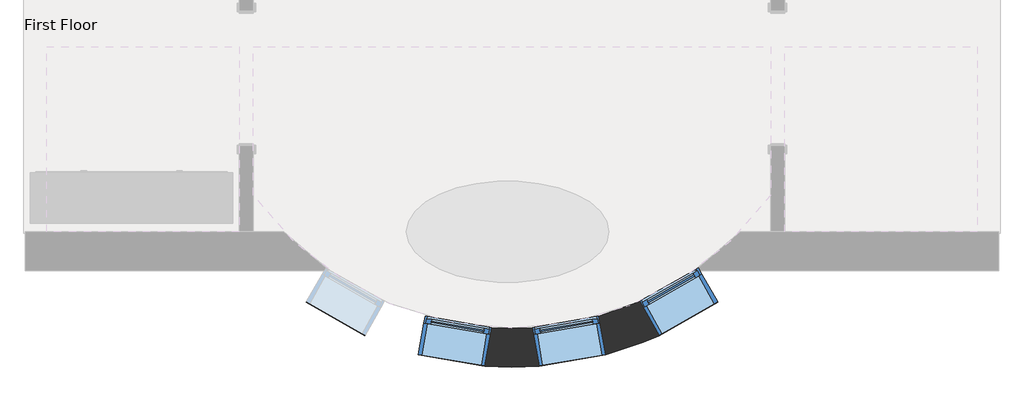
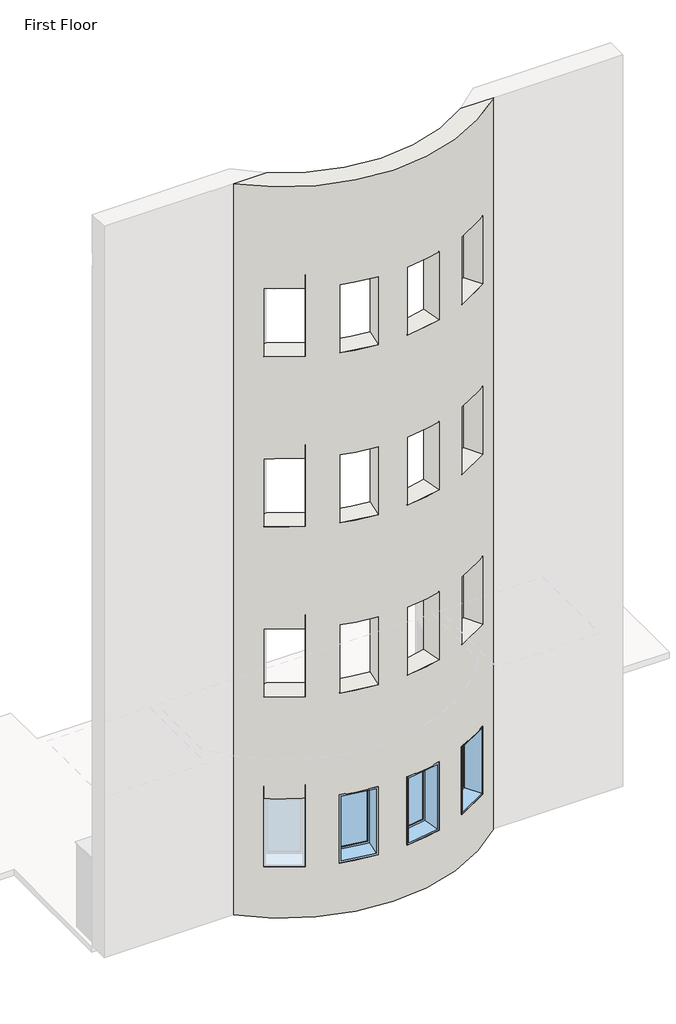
# One storey, part 2 of 3: 3 windows, 1 wall.
"""IFC4 building model written with IfcOpenShell, lengths in millimetres."""

from ifc_helpers import new_model, si_unit, frame, origin, place, context, project, spatial, polyline, circle_curve, transform, mapped, element, save
from ifc_brep_helpers import plane_surface, cylinder_surface, revolved_surface, advanced_brep
from components import window_60baf983, window_ed80354a

model = new_model("IFC4")

# Units and contexts
model_context = context("Model", 3, world=origin())
ifc_project = project(units=[si_unit("LENGTHUNIT", "METRE", prefix="MILLI")], contexts=[model_context])

# Site, building, storey
site = spatial("IfcSite", under=ifc_project)
building = spatial("IfcBuilding", under=site)
storey = spatial("IfcBuildingStorey", under=building, Name="First Floor", Elevation=0.0)

# Wall
placement = place(None, origin())
element("IfcWall", 1, ObjectType="Exterior - Brick on Mtl. Stud", at=placement, inside=storey, context=model_context, shape_type="AdvancedBrep", body=[
    advanced_brep(
    [(3312.4627349, 6294.7882581, 13106.4), (19.4814354, 6294.7882581, 13106.4), (-538.4131488, 6294.7882581, 13106.4), (3870.3573191, 6294.7882581, 13106.4), (19.4814354, 6294.7882581, 0.0), (3312.4627349, 6294.7882581, 0.0), (3870.3573191, 6294.7882581, 0.0), (-538.4131488, 6294.7882581, 0.0), (3312.4627349, 6294.7882581, 12420.6), (19.4814354, 6294.7882581, 12420.6), (19.4814354, 6294.7882581, 914.4), (513.6968458, 6017.2281075, 914.4), (513.6968458, 6017.2281075, 2133.6), (19.4814354, 6294.7882581, 2133.6), (19.4814354, 6294.7882581, 3962.4), (513.6968458, 6017.2281075, 3962.4), (513.6968458, 6017.2281075, 5181.6), (19.4814354, 6294.7882581, 5181.6), (19.4814354, 6294.7882581, 7010.4), (513.6968458, 6017.2281075, 7010.4), (513.6968458, 6017.2281075, 8229.6), (19.4814354, 6294.7882581, 8229.6), (19.4814354, 6294.7882581, 10058.4), (513.6968458, 6017.2281075, 10058.4), (513.6968458, 6017.2281075, 11277.6), (19.4814354, 6294.7882581, 11277.6), (19.4814354, 6294.7882581, 12192.0), (3312.4627349, 6294.7882581, 12192.0), (3312.4627349, 6294.7882581, 11277.6), (2818.2473245, 6017.2281075, 11277.6), (2818.2473245, 6017.2281075, 10058.4), (3312.4627349, 6294.7882581, 10058.4), (3312.4627349, 6294.7882581, 8229.6), (2818.2473245, 6017.2281075, 8229.6), (2818.2473245, 6017.2281075, 7010.4), (3312.4627349, 6294.7882581, 7010.4), (3312.4627349, 6294.7882581, 5181.6), (2818.2473245, 6017.2281075, 5181.6), (2818.2473245, 6017.2281075, 3962.4), (3312.4627349, 6294.7882581, 3962.4), (3312.4627349, 6294.7882581, 2133.6), (2818.2473245, 6017.2281075, 2133.6), (2818.2473245, 6017.2281075, 914.4), (3312.4627349, 6294.7882581, 914.4), (1481.667639, 5781.8408545, 914.4), (1481.667639, 5781.8408545, 2133.6), (880.9128086, 5885.3096604, 2133.6), (880.9128086, 5885.3096604, 914.4), (1850.2765313, 5781.8408545, 2133.6), (1850.2765313, 5781.8408545, 914.4), (2451.0313617, 5885.3096604, 914.4), (2451.0313617, 5885.3096604, 2133.6), (1481.667639, 5781.8408545, 10058.4), (1481.667639, 5781.8408545, 11277.6), (880.9128086, 5885.3096604, 11277.6), (880.9128086, 5885.3096604, 10058.4), (1850.2765313, 5781.8408545, 11277.6), (1850.2765313, 5781.8408545, 10058.4), (2451.0313617, 5885.3096604, 10058.4), (2451.0313617, 5885.3096604, 11277.6), (1481.667639, 5781.8408545, 3962.4), (1481.667639, 5781.8408545, 5181.6), (880.9128086, 5885.3096604, 5181.6), (880.9128086, 5885.3096604, 3962.4), (1850.2765313, 5781.8408545, 5181.6), (1850.2765313, 5781.8408545, 3962.4), (2451.0313617, 5885.3096604, 3962.4), (2451.0313617, 5885.3096604, 5181.6), (1481.667639, 5781.8408545, 7010.4), (1481.667639, 5781.8408545, 8229.6), (880.9128086, 5885.3096604, 8229.6), (880.9128086, 5885.3096604, 7010.4), (1850.2765313, 5781.8408545, 8229.6), (1850.2765313, 5781.8408545, 7010.4), (2451.0313617, 5885.3096604, 7010.4), (2451.0313617, 5885.3096604, 8229.6), (337.9427329, 5709.7012873, 2133.6), (337.9427329, 5709.7012873, 914.4), (-191.320121, 6012.1793715, 914.4), (-191.320121, 6012.1793715, 2133.6), (1421.5473554, 5432.7738053, 2133.6), (1421.5473554, 5432.7738053, 914.4), (820.792525, 5536.2426112, 914.4), (820.792525, 5536.2426112, 2133.6), (2994.0014374, 5709.7012873, 914.4), (2994.0014374, 5709.7012873, 2133.6), (3523.2642913, 6012.1793715, 2133.6), (3523.2642913, 6012.1793715, 914.4), (1910.3968149, 5432.7738053, 914.4), (1910.3968149, 5432.7738053, 2133.6), (2511.1516453, 5536.2426112, 2133.6), (2511.1516453, 5536.2426112, 914.4), (337.9427329, 5709.7012873, 11277.6), (337.9427329, 5709.7012873, 10058.4), (-191.320121, 6012.1793715, 10058.4), (-191.320121, 6012.1793715, 11277.6), (1421.5473554, 5432.7738053, 11277.6), (1421.5473554, 5432.7738053, 10058.4), (820.792525, 5536.2426112, 10058.4), (820.792525, 5536.2426112, 11277.6), (2994.0014374, 5709.7012873, 10058.4), (2994.0014374, 5709.7012873, 11277.6), (3523.2642913, 6012.1793715, 11277.6), (3523.2642913, 6012.1793715, 10058.4), (1910.3968149, 5432.7738053, 10058.4), (1910.3968149, 5432.7738053, 11277.6), (2511.1516453, 5536.2426112, 11277.6), (2511.1516453, 5536.2426112, 10058.4), (337.9427329, 5709.7012873, 5181.6), (337.9427329, 5709.7012873, 3962.4), (-191.320121, 6012.1793715, 3962.4), (-191.320121, 6012.1793715, 5181.6), (1421.5473554, 5432.7738053, 5181.6), (1421.5473554, 5432.7738053, 3962.4), (820.792525, 5536.2426112, 3962.4), (820.792525, 5536.2426112, 5181.6), (2994.0014374, 5709.7012873, 3962.4), (2994.0014374, 5709.7012873, 5181.6), (3523.2642913, 6012.1793715, 5181.6), (3523.2642913, 6012.1793715, 3962.4), (1910.3968149, 5432.7738053, 3962.4), (1910.3968149, 5432.7738053, 5181.6), (2511.1516453, 5536.2426112, 5181.6), (2511.1516453, 5536.2426112, 3962.4), (337.9427329, 5709.7012873, 8229.6), (337.9427329, 5709.7012873, 7010.4), (-191.320121, 6012.1793715, 7010.4), (-191.320121, 6012.1793715, 8229.6), (1421.5473554, 5432.7738053, 8229.6), (1421.5473554, 5432.7738053, 7010.4), (820.792525, 5536.2426112, 7010.4), (820.792525, 5536.2426112, 8229.6), (2994.0014374, 5709.7012873, 7010.4), (2994.0014374, 5709.7012873, 8229.6), (3523.2642913, 6012.1793715, 8229.6), (3523.2642913, 6012.1793715, 7010.4), (1910.3968149, 5432.7738053, 7010.4), (1910.3968149, 5432.7738053, 8229.6), (2511.1516453, 5536.2426112, 8229.6), (2511.1516453, 5536.2426112, 7010.4), (3361.7509829, 6294.7882581, 914.4), (3361.7509829, 6294.7882581, 2133.6), (3361.7509829, 6294.7882581, 3962.4), (3361.7509829, 6294.7882581, 5181.6), (3361.7509829, 6294.7882581, 7010.4), (3361.7509829, 6294.7882581, 8229.6), (3361.7509829, 6294.7882581, 10058.4), (3361.7509829, 6294.7882581, 11277.6), (3620.9496559, 6294.7882581, 12192.0), (3620.9496559, 6294.7882581, 12420.6), (-289.0054857, 6294.7882581, 12420.6), (-289.0054857, 6294.7882581, 12192.0), (-29.8068126, 6294.7882581, 11277.6), (-29.8068126, 6294.7882581, 10058.4), (-29.8068126, 6294.7882581, 8229.6), (-29.8068126, 6294.7882581, 7010.4), (-29.8068126, 6294.7882581, 5181.6), (-29.8068126, 6294.7882581, 3962.4), (-29.8068126, 6294.7882581, 2133.6), (-29.8068126, 6294.7882581, 914.4)],
    [
        (0, 1, circle_curve(frame((1665.9720851, 8647.7081431, 13106.4), z_axis=(0.0, 0.0, -1.0), x_axis=(1.0, 0.0, 0.0)), 2871.7875)),
        (1, 2),
        (2, 3, circle_curve(frame((1665.9720851, 8647.7081431, 13106.4), z_axis=(0.0, 0.0, 1.0), x_axis=(1.0, 0.0, 0.0)), 3224.2125)),
        (3, 0),
        (4, 5, circle_curve(frame((1665.9720851, 8647.7081431, 0.0), z_axis=(0.0, 0.0, 1.0), x_axis=(1.0, 0.0, 0.0)), 2871.7875)),
        (5, 6),
        (6, 7, circle_curve(frame((1665.9720851, 8647.7081431, 0.0), z_axis=(0.0, 0.0, -1.0), x_axis=(1.0, 0.0, 0.0)), 3224.2125)),
        (7, 4),
        (0, 8),
        (8, 9, circle_curve(frame((1665.9720851, 8647.7081431, 12420.6), z_axis=(0.0, 0.0, -1.0), x_axis=(1.0, 0.0, 0.0)), 2871.7875)),
        (9, 1),
        (4, 10),
        (10, 11, circle_curve(frame((1665.9720851, 8647.7081431, 914.4), z_axis=(0.0, 0.0, 1.0), x_axis=(1.0, 0.0, 0.0)), 2871.7875)),
        (11, 12),
        (12, 13, circle_curve(frame((1665.9720851, 8647.7081431, 2133.6), z_axis=(0.0, 0.0, -1.0), x_axis=(1.0, 0.0, 0.0)), 2871.7875)),
        (13, 14),
        (14, 15, circle_curve(frame((1665.9720851, 8647.7081431, 3962.4), z_axis=(0.0, 0.0, 1.0), x_axis=(1.0, 0.0, 0.0)), 2871.7875)),
        (15, 16),
        (16, 17, circle_curve(frame((1665.9720851, 8647.7081431, 5181.6), z_axis=(0.0, 0.0, -1.0), x_axis=(1.0, 0.0, 0.0)), 2871.7875)),
        (17, 18),
        (18, 19, circle_curve(frame((1665.9720851, 8647.7081431, 7010.4), z_axis=(0.0, 0.0, 1.0), x_axis=(1.0, 0.0, 0.0)), 2871.7875)),
        (19, 20),
        (20, 21, circle_curve(frame((1665.9720851, 8647.7081431, 8229.6), z_axis=(0.0, 0.0, -1.0), x_axis=(1.0, 0.0, 0.0)), 2871.7875)),
        (21, 22),
        (22, 23, circle_curve(frame((1665.9720851, 8647.7081431, 10058.4), z_axis=(0.0, 0.0, 1.0), x_axis=(1.0, 0.0, 0.0)), 2871.7875)),
        (23, 24),
        (24, 25, circle_curve(frame((1665.9720851, 8647.7081431, 11277.6), z_axis=(0.0, 0.0, -1.0), x_axis=(1.0, 0.0, 0.0)), 2871.7875)),
        (25, 26),
        (26, 27, circle_curve(frame((1665.9720851, 8647.7081431, 12192.0), z_axis=(0.0, 0.0, 1.0), x_axis=(1.0, 0.0, 0.0)), 2871.7875)),
        (27, 28),
        (28, 29, circle_curve(frame((1665.9720851, 8647.7081431, 11277.6), z_axis=(0.0, 0.0, -1.0), x_axis=(1.0, 0.0, 0.0)), 2871.7875)),
        (29, 30),
        (30, 31, circle_curve(frame((1665.9720851, 8647.7081431, 10058.4), z_axis=(0.0, 0.0, 1.0), x_axis=(1.0, 0.0, 0.0)), 2871.7875)),
        (31, 32),
        (32, 33, circle_curve(frame((1665.9720851, 8647.7081431, 8229.6), z_axis=(0.0, 0.0, -1.0), x_axis=(1.0, 0.0, 0.0)), 2871.7875)),
        (33, 34),
        (34, 35, circle_curve(frame((1665.9720851, 8647.7081431, 7010.4), z_axis=(0.0, 0.0, 1.0), x_axis=(1.0, 0.0, 0.0)), 2871.7875)),
        (35, 36),
        (36, 37, circle_curve(frame((1665.9720851, 8647.7081431, 5181.6), z_axis=(0.0, 0.0, -1.0), x_axis=(1.0, 0.0, 0.0)), 2871.7875)),
        (37, 38),
        (38, 39, circle_curve(frame((1665.9720851, 8647.7081431, 3962.4), z_axis=(0.0, 0.0, 1.0), x_axis=(1.0, 0.0, 0.0)), 2871.7875)),
        (39, 40),
        (40, 41, circle_curve(frame((1665.9720851, 8647.7081431, 2133.6), z_axis=(0.0, 0.0, -1.0), x_axis=(1.0, 0.0, 0.0)), 2871.7875)),
        (41, 42),
        (42, 43, circle_curve(frame((1665.9720851, 8647.7081431, 914.4), z_axis=(0.0, 0.0, 1.0), x_axis=(1.0, 0.0, 0.0)), 2871.7875)),
        (43, 5),
        (44, 45),
        (45, 46, circle_curve(frame((1665.9720851, 8647.7081431, 2133.6), z_axis=(0.0, 0.0, -1.0), x_axis=(1.0, 0.0, 0.0)), 2871.7875)),
        (46, 47),
        (47, 44, circle_curve(frame((1665.9720851, 8647.7081431, 914.4), z_axis=(0.0, 0.0, 1.0), x_axis=(1.0, 0.0, 0.0)), 2871.7875)),
        (48, 49),
        (49, 50, circle_curve(frame((1665.9720851, 8647.7081431, 914.4), z_axis=(0.0, 0.0, 1.0), x_axis=(1.0, 0.0, 0.0)), 2871.7875)),
        (50, 51),
        (51, 48, circle_curve(frame((1665.9720851, 8647.7081431, 2133.6), z_axis=(0.0, 0.0, -1.0), x_axis=(1.0, 0.0, 0.0)), 2871.7875)),
        (52, 53),
        (53, 54, circle_curve(frame((1665.9720851, 8647.7081431, 11277.6), z_axis=(0.0, 0.0, -1.0), x_axis=(1.0, 0.0, 0.0)), 2871.7875)),
        (54, 55),
        (55, 52, circle_curve(frame((1665.9720851, 8647.7081431, 10058.4), z_axis=(0.0, 0.0, 1.0), x_axis=(1.0, 0.0, 0.0)), 2871.7875)),
        (56, 57),
        (57, 58, circle_curve(frame((1665.9720851, 8647.7081431, 10058.4), z_axis=(0.0, 0.0, 1.0), x_axis=(1.0, 0.0, 0.0)), 2871.7875)),
        (58, 59),
        (59, 56, circle_curve(frame((1665.9720851, 8647.7081431, 11277.6), z_axis=(0.0, 0.0, -1.0), x_axis=(1.0, 0.0, 0.0)), 2871.7875)),
        (60, 61),
        (61, 62, circle_curve(frame((1665.9720851, 8647.7081431, 5181.6), z_axis=(0.0, 0.0, -1.0), x_axis=(1.0, 0.0, 0.0)), 2871.7875)),
        (62, 63),
        (63, 60, circle_curve(frame((1665.9720851, 8647.7081431, 3962.4), z_axis=(0.0, 0.0, 1.0), x_axis=(1.0, 0.0, 0.0)), 2871.7875)),
        (64, 65),
        (65, 66, circle_curve(frame((1665.9720851, 8647.7081431, 3962.4), z_axis=(0.0, 0.0, 1.0), x_axis=(1.0, 0.0, 0.0)), 2871.7875)),
        (66, 67),
        (67, 64, circle_curve(frame((1665.9720851, 8647.7081431, 5181.6), z_axis=(0.0, 0.0, -1.0), x_axis=(1.0, 0.0, 0.0)), 2871.7875)),
        (68, 69),
        (69, 70, circle_curve(frame((1665.9720851, 8647.7081431, 8229.6), z_axis=(0.0, 0.0, -1.0), x_axis=(1.0, 0.0, 0.0)), 2871.7875)),
        (70, 71),
        (71, 68, circle_curve(frame((1665.9720851, 8647.7081431, 7010.4), z_axis=(0.0, 0.0, 1.0), x_axis=(1.0, 0.0, 0.0)), 2871.7875)),
        (72, 73),
        (73, 74, circle_curve(frame((1665.9720851, 8647.7081431, 7010.4), z_axis=(0.0, 0.0, 1.0), x_axis=(1.0, 0.0, 0.0)), 2871.7875)),
        (74, 75),
        (75, 72, circle_curve(frame((1665.9720851, 8647.7081431, 8229.6), z_axis=(0.0, 0.0, -1.0), x_axis=(1.0, 0.0, 0.0)), 2871.7875)),
        (2, 7),
        (6, 3),
        (76, 77),
        (77, 78, circle_curve(frame((1665.9720851, 8647.7081431, 914.4), z_axis=(0.0, 0.0, -1.0), x_axis=(1.0, 0.0, 0.0)), 3224.2125)),
        (78, 79),
        (79, 76, circle_curve(frame((1665.9720851, 8647.7081431, 2133.6), z_axis=(0.0, 0.0, 1.0), x_axis=(1.0, 0.0, 0.0)), 3224.2125)),
        (80, 81),
        (81, 82, circle_curve(frame((1665.9720851, 8647.7081431, 914.4), z_axis=(0.0, 0.0, -1.0), x_axis=(1.0, 0.0, 0.0)), 3224.2125)),
        (82, 83),
        (83, 80, circle_curve(frame((1665.9720851, 8647.7081431, 2133.6), z_axis=(0.0, 0.0, 1.0), x_axis=(1.0, 0.0, 0.0)), 3224.2125)),
        (84, 85),
        (85, 86, circle_curve(frame((1665.9720851, 8647.7081431, 2133.6), z_axis=(0.0, 0.0, 1.0), x_axis=(1.0, 0.0, 0.0)), 3224.2125)),
        (86, 87),
        (87, 84, circle_curve(frame((1665.9720851, 8647.7081431, 914.4), z_axis=(0.0, 0.0, -1.0), x_axis=(1.0, 0.0, 0.0)), 3224.2125)),
        (88, 89),
        (89, 90, circle_curve(frame((1665.9720851, 8647.7081431, 2133.6), z_axis=(0.0, 0.0, 1.0), x_axis=(1.0, 0.0, 0.0)), 3224.2125)),
        (90, 91),
        (91, 88, circle_curve(frame((1665.9720851, 8647.7081431, 914.4), z_axis=(0.0, 0.0, -1.0), x_axis=(1.0, 0.0, 0.0)), 3224.2125)),
        (92, 93),
        (93, 94, circle_curve(frame((1665.9720851, 8647.7081431, 10058.4), z_axis=(0.0, 0.0, -1.0), x_axis=(1.0, 0.0, 0.0)), 3224.2125)),
        (94, 95),
        (95, 92, circle_curve(frame((1665.9720851, 8647.7081431, 11277.6), z_axis=(0.0, 0.0, 1.0), x_axis=(1.0, 0.0, 0.0)), 3224.2125)),
        (96, 97),
        (97, 98, circle_curve(frame((1665.9720851, 8647.7081431, 10058.4), z_axis=(0.0, 0.0, -1.0), x_axis=(1.0, 0.0, 0.0)), 3224.2125)),
        (98, 99),
        (99, 96, circle_curve(frame((1665.9720851, 8647.7081431, 11277.6), z_axis=(0.0, 0.0, 1.0), x_axis=(1.0, 0.0, 0.0)), 3224.2125)),
        (100, 101),
        (101, 102, circle_curve(frame((1665.9720851, 8647.7081431, 11277.6), z_axis=(0.0, 0.0, 1.0), x_axis=(1.0, 0.0, 0.0)), 3224.2125)),
        (102, 103),
        (103, 100, circle_curve(frame((1665.9720851, 8647.7081431, 10058.4), z_axis=(0.0, 0.0, -1.0), x_axis=(1.0, 0.0, 0.0)), 3224.2125)),
        (104, 105),
        (105, 106, circle_curve(frame((1665.9720851, 8647.7081431, 11277.6), z_axis=(0.0, 0.0, 1.0), x_axis=(1.0, 0.0, 0.0)), 3224.2125)),
        (106, 107),
        (107, 104, circle_curve(frame((1665.9720851, 8647.7081431, 10058.4), z_axis=(0.0, 0.0, -1.0), x_axis=(1.0, 0.0, 0.0)), 3224.2125)),
        (108, 109),
        (109, 110, circle_curve(frame((1665.9720851, 8647.7081431, 3962.4), z_axis=(0.0, 0.0, -1.0), x_axis=(1.0, 0.0, 0.0)), 3224.2125)),
        (110, 111),
        (111, 108, circle_curve(frame((1665.9720851, 8647.7081431, 5181.6), z_axis=(0.0, 0.0, 1.0), x_axis=(1.0, 0.0, 0.0)), 3224.2125)),
        (112, 113),
        (113, 114, circle_curve(frame((1665.9720851, 8647.7081431, 3962.4), z_axis=(0.0, 0.0, -1.0), x_axis=(1.0, 0.0, 0.0)), 3224.2125)),
        (114, 115),
        (115, 112, circle_curve(frame((1665.9720851, 8647.7081431, 5181.6), z_axis=(0.0, 0.0, 1.0), x_axis=(1.0, 0.0, 0.0)), 3224.2125)),
        (116, 117),
        (117, 118, circle_curve(frame((1665.9720851, 8647.7081431, 5181.6), z_axis=(0.0, 0.0, 1.0), x_axis=(1.0, 0.0, 0.0)), 3224.2125)),
        (118, 119),
        (119, 116, circle_curve(frame((1665.9720851, 8647.7081431, 3962.4), z_axis=(0.0, 0.0, -1.0), x_axis=(1.0, 0.0, 0.0)), 3224.2125)),
        (120, 121),
        (121, 122, circle_curve(frame((1665.9720851, 8647.7081431, 5181.6), z_axis=(0.0, 0.0, 1.0), x_axis=(1.0, 0.0, 0.0)), 3224.2125)),
        (122, 123),
        (123, 120, circle_curve(frame((1665.9720851, 8647.7081431, 3962.4), z_axis=(0.0, 0.0, -1.0), x_axis=(1.0, 0.0, 0.0)), 3224.2125)),
        (124, 125),
        (125, 126, circle_curve(frame((1665.9720851, 8647.7081431, 7010.4), z_axis=(0.0, 0.0, -1.0), x_axis=(1.0, 0.0, 0.0)), 3224.2125)),
        (126, 127),
        (127, 124, circle_curve(frame((1665.9720851, 8647.7081431, 8229.6), z_axis=(0.0, 0.0, 1.0), x_axis=(1.0, 0.0, 0.0)), 3224.2125)),
        (128, 129),
        (129, 130, circle_curve(frame((1665.9720851, 8647.7081431, 7010.4), z_axis=(0.0, 0.0, -1.0), x_axis=(1.0, 0.0, 0.0)), 3224.2125)),
        (130, 131),
        (131, 128, circle_curve(frame((1665.9720851, 8647.7081431, 8229.6), z_axis=(0.0, 0.0, 1.0), x_axis=(1.0, 0.0, 0.0)), 3224.2125)),
        (132, 133),
        (133, 134, circle_curve(frame((1665.9720851, 8647.7081431, 8229.6), z_axis=(0.0, 0.0, 1.0), x_axis=(1.0, 0.0, 0.0)), 3224.2125)),
        (134, 135),
        (135, 132, circle_curve(frame((1665.9720851, 8647.7081431, 7010.4), z_axis=(0.0, 0.0, -1.0), x_axis=(1.0, 0.0, 0.0)), 3224.2125)),
        (136, 137),
        (137, 138, circle_curve(frame((1665.9720851, 8647.7081431, 8229.6), z_axis=(0.0, 0.0, 1.0), x_axis=(1.0, 0.0, 0.0)), 3224.2125)),
        (138, 139),
        (139, 136, circle_curve(frame((1665.9720851, 8647.7081431, 7010.4), z_axis=(0.0, 0.0, -1.0), x_axis=(1.0, 0.0, 0.0)), 3224.2125)),
        (43, 140),
        (140, 141),
        (141, 40),
        (39, 142),
        (142, 143),
        (143, 36),
        (35, 144),
        (144, 145),
        (145, 32),
        (31, 146),
        (146, 147),
        (147, 28),
        (27, 148),
        (148, 149),
        (149, 8),
        (9, 150),
        (150, 151),
        (151, 26),
        (25, 152),
        (152, 153),
        (153, 22),
        (21, 154),
        (154, 155),
        (155, 18),
        (17, 156),
        (156, 157),
        (157, 14),
        (13, 158),
        (158, 159),
        (159, 10),
        (76, 12),
        (11, 77),
        (159, 78),
        (158, 79),
        (80, 45),
        (44, 81),
        (47, 82),
        (46, 83),
        (41, 85),
        (84, 42),
        (87, 140),
        (86, 141),
        (48, 89),
        (88, 49),
        (91, 50),
        (90, 51),
        (92, 24),
        (23, 93),
        (153, 94),
        (152, 95),
        (96, 53),
        (52, 97),
        (55, 98),
        (54, 99),
        (29, 101),
        (100, 30),
        (103, 146),
        (102, 147),
        (56, 105),
        (104, 57),
        (107, 58),
        (106, 59),
        (108, 16),
        (15, 109),
        (157, 110),
        (156, 111),
        (112, 61),
        (60, 113),
        (63, 114),
        (62, 115),
        (37, 117),
        (116, 38),
        (119, 142),
        (118, 143),
        (64, 121),
        (120, 65),
        (123, 66),
        (122, 67),
        (124, 20),
        (19, 125),
        (155, 126),
        (154, 127),
        (128, 69),
        (68, 129),
        (71, 130),
        (70, 131),
        (33, 133),
        (132, 34),
        (135, 144),
        (134, 145),
        (72, 137),
        (136, 73),
        (139, 74),
        (138, 75),
        (151, 148, circle_curve(frame((1665.9720851, 8647.7081431, 12192.0), z_axis=(0.0, 0.0, 1.0), x_axis=(1.0, 0.0, 0.0)), 3059.1125)),
        (149, 150, circle_curve(frame((1665.9720851, 8647.7081431, 12420.6), z_axis=(0.0, 0.0, -1.0), x_axis=(1.0, 0.0, 0.0)), 3059.1125)),
    ],
    [
        plane_surface(frame((4537.7595851, 8647.7081431, 13106.4), z_axis=(0.0, 0.0, 1.0), x_axis=(0.0, -1.0, 0.0))),
        plane_surface(frame((4537.7595851, 8647.7081431, 0.0), z_axis=(0.0, 0.0, -1.0), x_axis=(0.0, 1.0, 0.0))),
        revolved_surface(polyline([(4537.7595851, 8647.7081431, 12420.6), (4537.7595851, 8647.7081431, 13106.4)]), (1665.9720851, 8647.7081431, 0.0), (0.0, 0.0, -1.0)),
        revolved_surface(polyline([(4537.7595851, 8647.7081431, 0.0), (4537.7595851, 8647.7081431, 12192.0)]), (1665.9720851, 8647.7081431, 0.0), (0.0, 0.0, -1.0)),
        cylinder_surface(frame((1665.9720851, 8647.7081431, 0.0), z_axis=(0.0, 0.0, 1.0), x_axis=(1.0, 0.0, 0.0)), 3224.2125),
        plane_surface(frame((6237.9720851, 6294.7882581, 0.0), z_axis=(0.0, 1.0, 0.0), x_axis=(1.0, 0.0, 0.0))),
        plane_surface(frame((-2906.0279149, 6294.7882581, 0.0), z_axis=(0.0, 1.0, 0.0), x_axis=(1.0, 0.0, 0.0))),
        plane_surface(frame((1095.0219139, 7034.4051549, 2133.6), z_axis=(-0.8682133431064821, 0.49619108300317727, 0.0), x_axis=(-0.49619108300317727, -0.8682133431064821, 0.0))),
        plane_surface(frame((1095.0219139, 7034.4051549, 914.4), z_axis=(0.0, 0.0, 1.0), x_axis=(-0.4961910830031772, -0.8682133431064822, 0.0))),
        plane_surface(frame((565.7590599, 7336.8832391, 914.4), z_axis=(0.8682133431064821, -0.4961910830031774, 0.0), x_axis=(-0.4961910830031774, -0.8682133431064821, 0.0))),
        plane_surface(frame((565.7590599, 7336.8832391, 2133.6), z_axis=(0.0, 0.0, -1.0), x_axis=(-0.4961910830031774, -0.8682133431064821, 0.0))),
        plane_surface(frame((1421.5473554, 5432.7738053, 2133.6), z_axis=(-0.9854902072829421, 0.16973229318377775, 0.0), x_axis=(0.16973229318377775, 0.9854902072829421, 0.0))),
        plane_surface(frame((1421.5473554, 5432.7738053, 914.4), z_axis=(0.0, 0.0, 1.0), x_axis=(0.16973229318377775, 0.9854902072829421, 0.0))),
        plane_surface(frame((820.792525, 5536.2426112, 914.4), z_axis=(0.9854902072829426, -0.16973229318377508, 0.0), x_axis=(0.16973229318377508, 0.9854902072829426, 0.0))),
        plane_surface(frame((820.792525, 5536.2426112, 2133.6), z_axis=(0.0, 0.0, -1.0), x_axis=(0.16973229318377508, 0.9854902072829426, 0.0))),
        plane_surface(frame((3749.3126774, 4388.0908851, 2133.6), z_axis=(0.8682133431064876, 0.4961910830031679, 0.0), x_axis=(-0.4961910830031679, 0.8682133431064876, 0.0))),
        plane_surface(frame((3749.3126774, 4388.0908851, 914.4), z_axis=(0.0, 0.0, 1.0000000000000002), x_axis=(-0.4961910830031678, 0.8682133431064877, 0.0))),
        plane_surface(frame((4278.5755314, 4690.5689693, 914.4), z_axis=(-0.8682133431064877, -0.4961910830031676, 0.0), x_axis=(-0.4961910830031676, 0.8682133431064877, 0.0))),
        plane_surface(frame((4278.5755314, 4690.5689693, 2133.6), z_axis=(0.0, 0.0, -1.0), x_axis=(-0.4961910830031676, 0.8682133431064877, 0.0))),
        plane_surface(frame((1850.2765313, 5781.8408545, 2133.6), z_axis=(0.9854902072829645, 0.1697322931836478, 0.0), x_axis=(0.1697322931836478, -0.9854902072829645, 0.0))),
        plane_surface(frame((1850.2765313, 5781.8408545, 914.4), z_axis=(0.0, 0.0, 1.0000000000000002), x_axis=(0.1697322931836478, -0.9854902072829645, 0.0))),
        plane_surface(frame((2451.0313617, 5885.3096604, 914.4), z_axis=(-0.9854902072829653, -0.16973229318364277, 0.0), x_axis=(0.16973229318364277, -0.9854902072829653, 0.0))),
        plane_surface(frame((2451.0313617, 5885.3096604, 2133.6), z_axis=(0.0, 0.0, -1.0), x_axis=(0.16973229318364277, -0.9854902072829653, 0.0))),
        plane_surface(frame((1095.0219139, 7034.4051549, 11277.6), z_axis=(-0.8682133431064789, 0.4961910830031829, 0.0), x_axis=(-0.4961910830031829, -0.8682133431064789, 0.0))),
        plane_surface(frame((1095.0219139, 7034.4051549, 10058.4), z_axis=(0.0, 0.0, 1.0), x_axis=(-0.4961910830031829, -0.8682133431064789, 0.0))),
        plane_surface(frame((565.7590599, 7336.8832391, 10058.4), z_axis=(0.8682133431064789, -0.4961910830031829, 0.0), x_axis=(-0.4961910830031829, -0.8682133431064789, 0.0))),
        plane_surface(frame((565.7590599, 7336.8832391, 11277.6), z_axis=(0.0, 0.0, -1.0), x_axis=(-0.4961910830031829, -0.8682133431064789, 0.0))),
        plane_surface(frame((1421.5473554, 5432.7738053, 11277.6), z_axis=(-0.9854902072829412, 0.1697322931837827, 0.0), x_axis=(0.1697322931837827, 0.9854902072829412, 0.0))),
        plane_surface(frame((1421.5473554, 5432.7738053, 10058.4), z_axis=(0.0, 0.0, 1.0000000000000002), x_axis=(0.1697322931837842, 0.985490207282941, 0.0))),
        plane_surface(frame((820.792525, 5536.2426112, 10058.4), z_axis=(0.9854902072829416, -0.16973229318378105, 0.0), x_axis=(0.16973229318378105, 0.9854902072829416, 0.0))),
        plane_surface(frame((820.792525, 5536.2426112, 11277.6), z_axis=(0.0, 0.0, -1.0), x_axis=(0.16973229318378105, 0.9854902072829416, 0.0))),
        plane_surface(frame((3749.3126774, 4388.0908851, 11277.6), z_axis=(0.8682133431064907, 0.4961910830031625, 0.0), x_axis=(-0.4961910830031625, 0.8682133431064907, 0.0))),
        plane_surface(frame((3749.3126774, 4388.0908851, 10058.4), z_axis=(0.0, 0.0, 1.0000000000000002), x_axis=(-0.4961910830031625, 0.8682133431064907, 0.0))),
        plane_surface(frame((4278.5755314, 4690.5689693, 10058.4), z_axis=(-0.8682133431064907, -0.4961910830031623, 0.0), x_axis=(-0.4961910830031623, 0.8682133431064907, 0.0))),
        plane_surface(frame((4278.5755314, 4690.5689693, 11277.6), z_axis=(0.0, 0.0, -1.0), x_axis=(-0.4961910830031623, 0.8682133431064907, 0.0))),
        plane_surface(frame((1850.2765313, 5781.8408545, 11277.6), z_axis=(0.9854902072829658, 0.1697322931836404, 0.0), x_axis=(0.1697322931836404, -0.9854902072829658, 0.0))),
        plane_surface(frame((1850.2765313, 5781.8408545, 10058.4), z_axis=(0.0, 0.0, 1.0000000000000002), x_axis=(0.16973229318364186, -0.9854902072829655, 0.0))),
        plane_surface(frame((2451.0313617, 5885.3096604, 10058.4), z_axis=(-0.9854902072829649, -0.16973229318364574, 0.0), x_axis=(0.16973229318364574, -0.9854902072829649, 0.0))),
        plane_surface(frame((2451.0313617, 5885.3096604, 11277.6), z_axis=(0.0, 0.0, -1.0000000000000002), x_axis=(0.16973229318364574, -0.9854902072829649, 0.0))),
        plane_surface(frame((1095.0219139, 7034.4051549, 5181.6), z_axis=(-0.8682133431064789, 0.4961910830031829, 0.0), x_axis=(-0.4961910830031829, -0.8682133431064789, 0.0))),
        plane_surface(frame((1095.0219139, 7034.4051549, 3962.4), z_axis=(0.0, 0.0, 1.0), x_axis=(-0.4961910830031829, -0.8682133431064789, 0.0))),
        plane_surface(frame((565.7590599, 7336.8832391, 3962.4), z_axis=(0.8682133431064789, -0.4961910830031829, 0.0), x_axis=(-0.4961910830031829, -0.8682133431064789, 0.0))),
        plane_surface(frame((565.7590599, 7336.8832391, 5181.6), z_axis=(0.0, 0.0, -1.0), x_axis=(-0.4961910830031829, -0.8682133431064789, 0.0))),
        plane_surface(frame((1421.5473554, 5432.7738053, 5181.6), z_axis=(-0.9854902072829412, 0.1697322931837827, 0.0), x_axis=(0.1697322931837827, 0.9854902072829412, 0.0))),
        plane_surface(frame((1421.5473554, 5432.7738053, 3962.4), z_axis=(0.0, 0.0, 1.0000000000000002), x_axis=(0.1697322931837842, 0.985490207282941, 0.0))),
        plane_surface(frame((820.792525, 5536.2426112, 3962.4), z_axis=(0.9854902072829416, -0.16973229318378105, 0.0), x_axis=(0.16973229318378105, 0.9854902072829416, 0.0))),
        plane_surface(frame((820.792525, 5536.2426112, 5181.6), z_axis=(0.0, 0.0, -1.0), x_axis=(0.16973229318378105, 0.9854902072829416, 0.0))),
        plane_surface(frame((3749.3126774, 4388.0908851, 5181.6), z_axis=(0.8682133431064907, 0.4961910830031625, 0.0), x_axis=(-0.4961910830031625, 0.8682133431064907, 0.0))),
        plane_surface(frame((3749.3126774, 4388.0908851, 3962.4), z_axis=(0.0, 0.0, 1.0000000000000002), x_axis=(-0.4961910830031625, 0.8682133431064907, 0.0))),
        plane_surface(frame((4278.5755314, 4690.5689693, 3962.4), z_axis=(-0.8682133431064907, -0.4961910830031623, 0.0), x_axis=(-0.4961910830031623, 0.8682133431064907, 0.0))),
        plane_surface(frame((4278.5755314, 4690.5689693, 5181.6), z_axis=(0.0, 0.0, -1.0), x_axis=(-0.4961910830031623, 0.8682133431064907, 0.0))),
        plane_surface(frame((1850.2765313, 5781.8408545, 5181.6), z_axis=(0.9854902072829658, 0.1697322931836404, 0.0), x_axis=(0.1697322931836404, -0.9854902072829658, 0.0))),
        plane_surface(frame((1850.2765313, 5781.8408545, 3962.4), z_axis=(0.0, 0.0, 1.0000000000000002), x_axis=(0.16973229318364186, -0.9854902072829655, 0.0))),
        plane_surface(frame((2451.0313617, 5885.3096604, 3962.4), z_axis=(-0.9854902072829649, -0.16973229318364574, 0.0), x_axis=(0.16973229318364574, -0.9854902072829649, 0.0))),
        plane_surface(frame((2451.0313617, 5885.3096604, 5181.6), z_axis=(0.0, 0.0, -1.0000000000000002), x_axis=(0.16973229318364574, -0.9854902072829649, 0.0))),
        plane_surface(frame((1095.0219139, 7034.4051549, 8229.6), z_axis=(-0.8682133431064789, 0.4961910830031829, 0.0), x_axis=(-0.4961910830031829, -0.8682133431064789, 0.0))),
        plane_surface(frame((1095.0219139, 7034.4051549, 7010.4), z_axis=(0.0, 0.0, 1.0), x_axis=(-0.4961910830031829, -0.8682133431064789, 0.0))),
        plane_surface(frame((565.7590599, 7336.8832391, 7010.4), z_axis=(0.8682133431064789, -0.4961910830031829, 0.0), x_axis=(-0.4961910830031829, -0.8682133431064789, 0.0))),
        plane_surface(frame((565.7590599, 7336.8832391, 8229.6), z_axis=(0.0, 0.0, -1.0), x_axis=(-0.4961910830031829, -0.8682133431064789, 0.0))),
        plane_surface(frame((1421.5473554, 5432.7738053, 8229.6), z_axis=(-0.9854902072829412, 0.1697322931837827, 0.0), x_axis=(0.1697322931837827, 0.9854902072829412, 0.0))),
        plane_surface(frame((1421.5473554, 5432.7738053, 7010.4), z_axis=(0.0, 0.0, 1.0000000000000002), x_axis=(0.1697322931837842, 0.985490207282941, 0.0))),
        plane_surface(frame((820.792525, 5536.2426112, 7010.4), z_axis=(0.9854902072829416, -0.16973229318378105, 0.0), x_axis=(0.16973229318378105, 0.9854902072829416, 0.0))),
        plane_surface(frame((820.792525, 5536.2426112, 8229.6), z_axis=(0.0, 0.0, -1.0), x_axis=(0.16973229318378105, 0.9854902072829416, 0.0))),
        plane_surface(frame((3749.3126774, 4388.0908851, 8229.6), z_axis=(0.8682133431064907, 0.4961910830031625, 0.0), x_axis=(-0.4961910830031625, 0.8682133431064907, 0.0))),
        plane_surface(frame((3749.3126774, 4388.0908851, 7010.4), z_axis=(0.0, 0.0, 1.0000000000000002), x_axis=(-0.4961910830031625, 0.8682133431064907, 0.0))),
        plane_surface(frame((4278.5755314, 4690.5689693, 7010.4), z_axis=(-0.8682133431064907, -0.4961910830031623, 0.0), x_axis=(-0.4961910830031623, 0.8682133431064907, 0.0))),
        plane_surface(frame((4278.5755314, 4690.5689693, 8229.6), z_axis=(0.0, 0.0, -1.0), x_axis=(-0.4961910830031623, 0.8682133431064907, 0.0))),
        plane_surface(frame((1850.2765313, 5781.8408545, 8229.6), z_axis=(0.9854902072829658, 0.1697322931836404, 0.0), x_axis=(0.1697322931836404, -0.9854902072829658, 0.0))),
        plane_surface(frame((1850.2765313, 5781.8408545, 7010.4), z_axis=(0.0, 0.0, 1.0000000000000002), x_axis=(0.16973229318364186, -0.9854902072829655, 0.0))),
        plane_surface(frame((2451.0313617, 5885.3096604, 7010.4), z_axis=(-0.9854902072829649, -0.16973229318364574, 0.0), x_axis=(0.16973229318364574, -0.9854902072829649, 0.0))),
        plane_surface(frame((2451.0313617, 5885.3096604, 8229.6), z_axis=(0.0, 0.0, -1.0000000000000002), x_axis=(0.16973229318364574, -0.9854902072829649, 0.0))),
        plane_surface(frame((-5028.5154149, 12403.4882581, 12192.0), z_axis=(0.0, 0.0, 1.0), x_axis=(1.0, 0.0, 0.0))),
        plane_surface(frame((-5028.5154149, 12403.4882581, 12420.6), z_axis=(0.0, 0.0, -1.0), x_axis=(1.0, 0.0, 0.0))),
        revolved_surface(polyline([(4725.0845851, 8647.7081431, 12420.6), (4725.0845851, 8647.7081431, 12192.0)]), (1665.9720851, 8647.7081431, 12192.0), (0.0, 0.0, 1.0)),
    ],
    [
        (0, [[1, 2, 3, 4]]),
        (1, [[5, 6, 7, 8]]),
        (2, [[-1, 9, 10, 11]]),
        (3, [[-5, 12, 13, 14, 15, 16, 17, 18, 19, 20, 21, 22, 23, 24, 25, 26, 27, 28, 29, 30, 31, 32, 33, 34, 35, 36, 37, 38, 39, 40, 41, 42, 43, 44, 45, 46], [47, 48, 49, 50], [51, 52, 53, 54], [55, 56, 57, 58], [59, 60, 61, 62], [63, 64, 65, 66], [67, 68, 69, 70], [71, 72, 73, 74], [75, 76, 77, 78]]),
        (4, [[-3, 79, -7, 80], [81, 82, 83, 84], [85, 86, 87, 88], [89, 90, 91, 92], [93, 94, 95, 96], [97, 98, 99, 100], [101, 102, 103, 104], [105, 106, 107, 108], [109, 110, 111, 112], [113, 114, 115, 116], [117, 118, 119, 120], [121, 122, 123, 124], [125, 126, 127, 128], [129, 130, 131, 132], [133, 134, 135, 136], [137, 138, 139, 140], [141, 142, 143, 144]]),
        (5, [[-4, -80, -6, -46, 145, 146, 147, -42, 148, 149, 150, -38, 151, 152, 153, -34, 154, 155, 156, -30, 157, 158, 159, -9]]),
        (6, [[-2, -11, 160, 161, 162, -28, 163, 164, 165, -24, 166, 167, 168, -20, 169, 170, 171, -16, 172, 173, 174, -12, -8, -79]]),
        (7, [[175, -14, 176, -81]]),
        (8, [[-176, -13, -174, 177, -82]]),
        (9, [[-177, -173, 178, -83]]),
        (10, [[-175, -84, -178, -172, -15]]),
        (11, [[-85, 179, -47, 180]]),
        (12, [[-86, -180, -50, 181]]),
        (13, [[-87, -181, -49, 182]]),
        (14, [[-88, -182, -48, -179]]),
        (15, [[183, -89, 184, -44]]),
        (16, [[-184, -92, 185, -145, -45]]),
        (17, [[-185, -91, 186, -146]]),
        (18, [[-183, -43, -147, -186, -90]]),
        (19, [[-51, 187, -93, 188]]),
        (20, [[-52, -188, -96, 189]]),
        (21, [[-53, -189, -95, 190]]),
        (22, [[-54, -190, -94, -187]]),
        (23, [[191, -26, 192, -97]]),
        (24, [[-192, -25, -165, 193, -98]]),
        (25, [[-193, -164, 194, -99]]),
        (26, [[-191, -100, -194, -163, -27]]),
        (27, [[-101, 195, -55, 196]]),
        (28, [[-102, -196, -58, 197]]),
        (29, [[-103, -197, -57, 198]]),
        (30, [[-104, -198, -56, -195]]),
        (31, [[199, -105, 200, -32]]),
        (32, [[-200, -108, 201, -154, -33]]),
        (33, [[-201, -107, 202, -155]]),
        (34, [[-199, -31, -156, -202, -106]]),
        (35, [[-59, 203, -109, 204]]),
        (36, [[-60, -204, -112, 205]]),
        (37, [[-61, -205, -111, 206]]),
        (38, [[-62, -206, -110, -203]]),
        (39, [[207, -18, 208, -113]]),
        (40, [[-208, -17, -171, 209, -114]]),
        (41, [[-209, -170, 210, -115]]),
        (42, [[-207, -116, -210, -169, -19]]),
        (43, [[-117, 211, -63, 212]]),
        (44, [[-118, -212, -66, 213]]),
        (45, [[-119, -213, -65, 214]]),
        (46, [[-120, -214, -64, -211]]),
        (47, [[215, -121, 216, -40]]),
        (48, [[-216, -124, 217, -148, -41]]),
        (49, [[-217, -123, 218, -149]]),
        (50, [[-215, -39, -150, -218, -122]]),
        (51, [[-67, 219, -125, 220]]),
        (52, [[-68, -220, -128, 221]]),
        (53, [[-69, -221, -127, 222]]),
        (54, [[-70, -222, -126, -219]]),
        (55, [[223, -22, 224, -129]]),
        (56, [[-224, -21, -168, 225, -130]]),
        (57, [[-225, -167, 226, -131]]),
        (58, [[-223, -132, -226, -166, -23]]),
        (59, [[-133, 227, -71, 228]]),
        (60, [[-134, -228, -74, 229]]),
        (61, [[-135, -229, -73, 230]]),
        (62, [[-136, -230, -72, -227]]),
        (63, [[231, -137, 232, -36]]),
        (64, [[-232, -140, 233, -151, -37]]),
        (65, [[-233, -139, 234, -152]]),
        (66, [[-231, -35, -153, -234, -138]]),
        (67, [[-75, 235, -141, 236]]),
        (68, [[-76, -236, -144, 237]]),
        (69, [[-77, -237, -143, 238]]),
        (70, [[-78, -238, -142, -235]]),
        (71, [[239, -157, -29, -162]]),
        (72, [[240, -160, -10, -159]]),
        (73, [[-239, -161, -240, -158]]),
    ],
),
])

# Windows
window_shape = window_60baf983(model_context)
element("IfcWindow", 2, ObjectType="Fixed : 24\" x 48\"", at=placement, inside=storey, context=model_context, shape_type="MappedRepresentation", body=[
    mapped(window_shape, transform((1188.928449, 5653.4527639, 0.0), x_axis=(0.9854902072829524, -0.16973229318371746, 0.0), y_axis=(0.16973229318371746, 0.9854902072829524, 0.0), z_axis=(0.0, 0.0, 1.0))),
])
window_2_shape = window_ed80354a(model_context)
element("IfcWindow", 3, ObjectType="Fixed : 24\" x 48\"", at=placement, inside=storey, context=model_context, shape_type="MappedRepresentation", body=[
    mapped(window_2_shape, transform((3137.2348943, 5996.5722256, 0.0), x_axis=(-0.8682133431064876, -0.49619108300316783, 0.0), y_axis=(0.49619108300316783, -0.8682133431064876, 0.0), z_axis=(0.0, 0.0, 1.0))),
])
element("IfcWindow", 4, ObjectType="Fixed : 24\" x 48\"", at=placement, inside=storey, context=model_context, shape_type="MappedRepresentation", body=[
    mapped(window_2_shape, transform((2143.0157213, 5653.4527639, 0.0), x_axis=(-0.9854902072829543, -0.1697322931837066, 0.0), y_axis=(0.1697322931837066, -0.9854902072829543, 0.0), z_axis=(0.0, 0.0, 1.0))),
])

save(model, "model.ifc")
